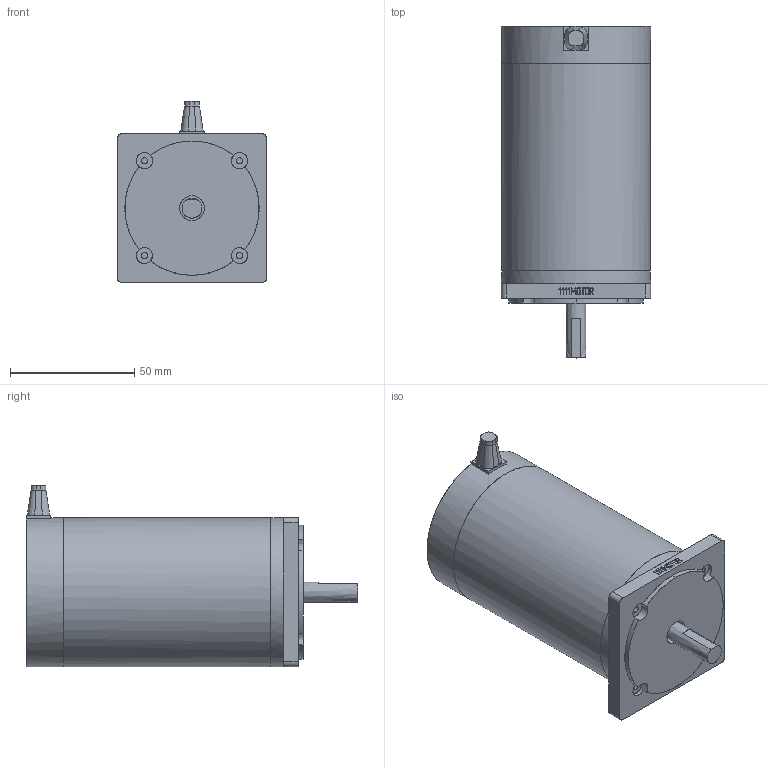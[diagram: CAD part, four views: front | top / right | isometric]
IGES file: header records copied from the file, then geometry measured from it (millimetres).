
Start section: C
Global section: file name: BL60L.igs; native system: By Siemens PLM Incorporated; preprocessor: XPlus GENERIC/IGES 17.0.49; author: Author; organization: Title; date: 20170219.130736; units: millimetre
Bounding box: 60 x 133.5 x 73 mm (x, y, z)
Surface area: 54801.7 mm2 (no closed solid volume)
Topology: 0 solids, 0 shells, 223 faces, 1432 edges, 1432 vertices
Faces by surface type: bspline 223
